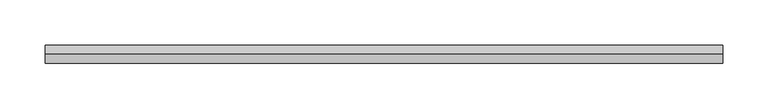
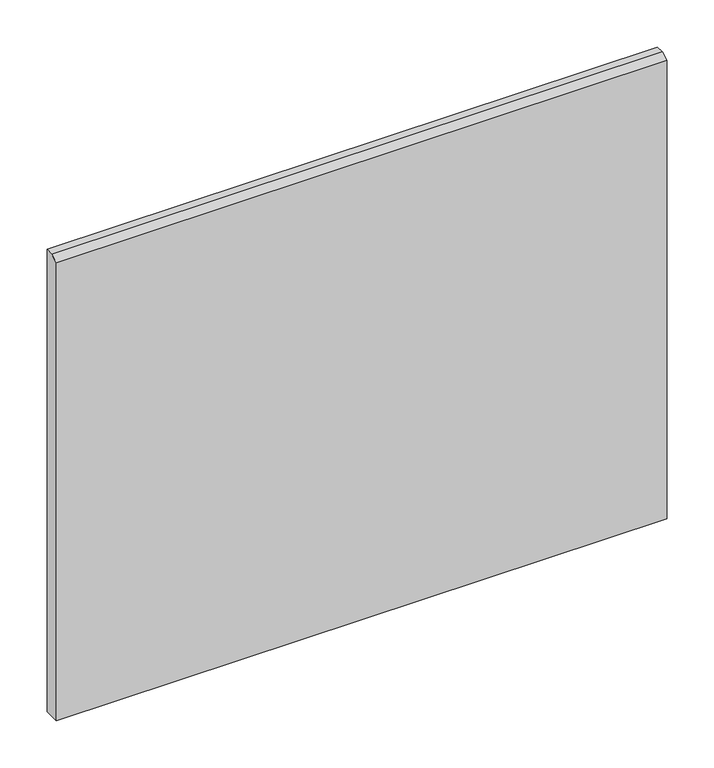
"""IFC4 building model written with IfcOpenShell, lengths in millimetres: proxy geometry, 400_35_NS_gevelplint : 20 mm dik."""

from ifc_helpers import new_model, si_unit, frame, origin, place, context, project, spatial, polyline, outline, extrude, source, transform, mapped, element, save


def generic_models_d3818979(model_context):
    return source(origin(), model_context, "Body", "SweptSolid", [
        extrude(outline(polyline([(20.0, 0.0), (0.0, 0.0), (0.0, 595.0), (10.0, 600.0), (20.0, 600.0), (20.0, 0.0)])), frame((-375.0, 0.0, 0.0), z_axis=(1.0, 0.0, 0.0), x_axis=(0.0, 1.0, 0.0)), (0.0, 0.0, 1.0), 750.0),
    ])


if __name__ == "__main__":
    model = new_model("IFC4")
    model_context = context("Model", 3, world=origin())
    ifc_project = project(units=[si_unit("LENGTHUNIT", "METRE", prefix="MILLI")], contexts=[model_context])
    site = spatial("IfcSite", under=ifc_project)
    building = spatial("IfcBuilding", under=site)
    placement = place(None, origin())
    generic_models_shape = generic_models_d3818979(model_context)
    element("IfcBuildingElementProxy", 1, Name="400_35_NS_gevelplint : 20 mm dik", ObjectType="400_35_NS_gevelplint : 20 mm dik", at=placement, inside=building, context=model_context, shape_type="MappedRepresentation", body=[
        mapped(generic_models_shape, transform((0.0, 0.0, 0.0), x_axis=(1.0, 0.0, 0.0), y_axis=(0.0, 1.0, 0.0), z_axis=(0.0, 0.0, 1.0))),
    ])
    save(model, "model.ifc")
